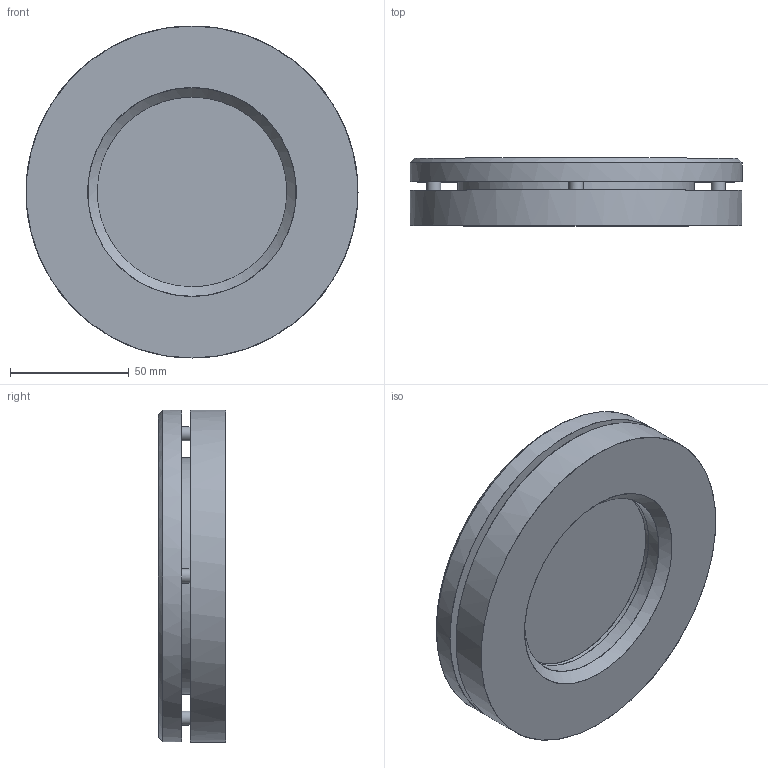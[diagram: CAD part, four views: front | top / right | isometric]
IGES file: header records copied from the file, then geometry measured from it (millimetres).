
Start section: C
Global section: file name: Armatur 28120 drucklos DN 50.igs; native system: By Siemens PLM Incorporated; preprocessor: XPlus GENERIC/IGES 18.0.17; author: Author; organization: Title; date: 20160118.152525; units: millimetre
Bounding box: 140 x 28.5 x 140 mm (x, y, z)
Surface area: 95399.4 mm2 (no closed solid volume)
Topology: 0 solids, 0 shells, 180 faces, 944 edges, 940 vertices
Faces by surface type: bspline 180
